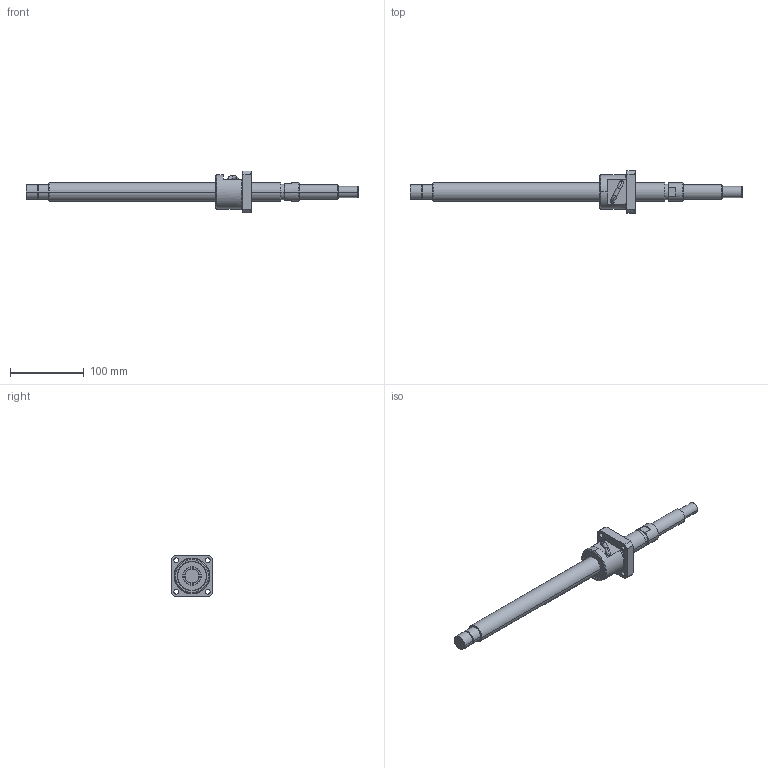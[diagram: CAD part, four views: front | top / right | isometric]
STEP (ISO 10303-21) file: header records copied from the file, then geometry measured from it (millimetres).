
FILE_DESCRIPTION (( 'STEP AP214' ), '1' );
FILE_NAME ('BS2505A-3D.STEP', '2014-03-05T14:53:11', ( '' ), ( '' ), 'SwSTEP 2.0', 'SolidWorks 2012', '' );
FILE_SCHEMA (( 'AUTOMOTIVE_DESIGN' ));
Length unit declared in the file: millimetre
Products named in the file (3): BS2505Aナット; BS2505AŽ²; BS2505A-3D
Assembly tree (2 placements, depth 2):
  BS2505A-3D
    BS2505AŽ²
    BS2505Aナット
Bounding box: 451 x 57 x 57 mm (x, y, z)
Volume: 264408.2 mm3; surface area: 55084.3 mm2
Topology: 2 solids, 2 shells, 144 faces, 368 edges, 242 vertices
Faces by surface type: cylinder 63, plane 41, cone 34, torus 4, bspline 2
Entity records: 5709 total; most frequent: CARTESIAN_POINT 1968, DIRECTION 785, ORIENTED_EDGE 736, EDGE_CURVE 368, AXIS2_PLACEMENT_3D 329, VERTEX_POINT 242, CIRCLE 182, EDGE_LOOP 176
